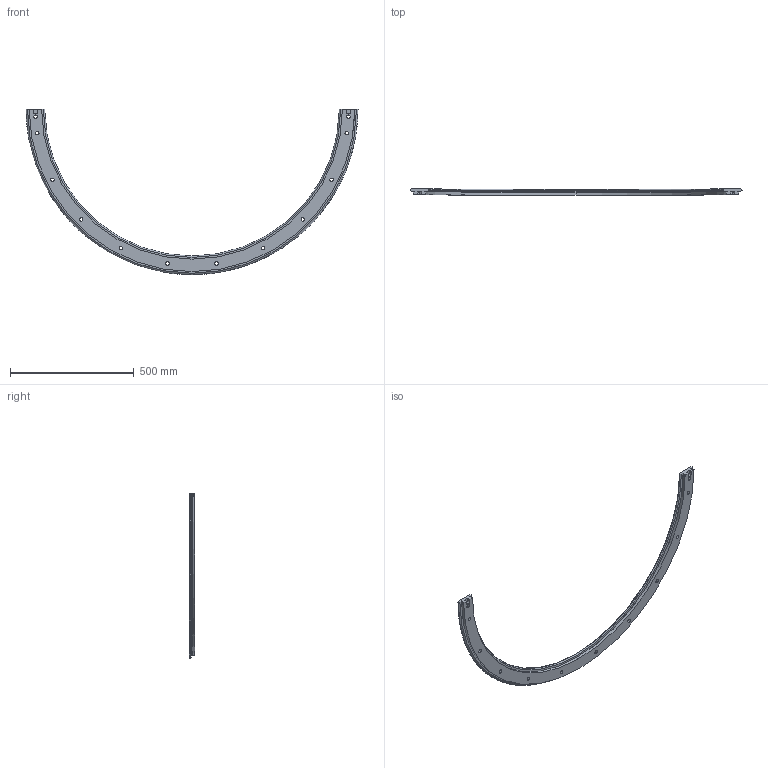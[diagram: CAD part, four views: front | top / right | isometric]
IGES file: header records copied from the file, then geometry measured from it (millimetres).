
Start section: 3D InterOp IGES (v. 2019 1.0.2), Spatial Corp. Copyright (c) 1999-2017.
Global section: file name: TR76 1267 R180.igs; native system: Spatial Corp.; preprocessor: 3D InterOp GENERIC/IGES 3.0; author: Noname; organization: Noname; date: 20220628.092405; units: millimetre
Bounding box: 1342.6 x 24 x 668.8 mm (x, y, z)
Surface area: 418473.9 mm2 (no closed solid volume)
Topology: 0 solids, 0 shells, 138 faces, 692 edges, 692 vertices
Faces by surface type: revolution 80, extrusion 58
